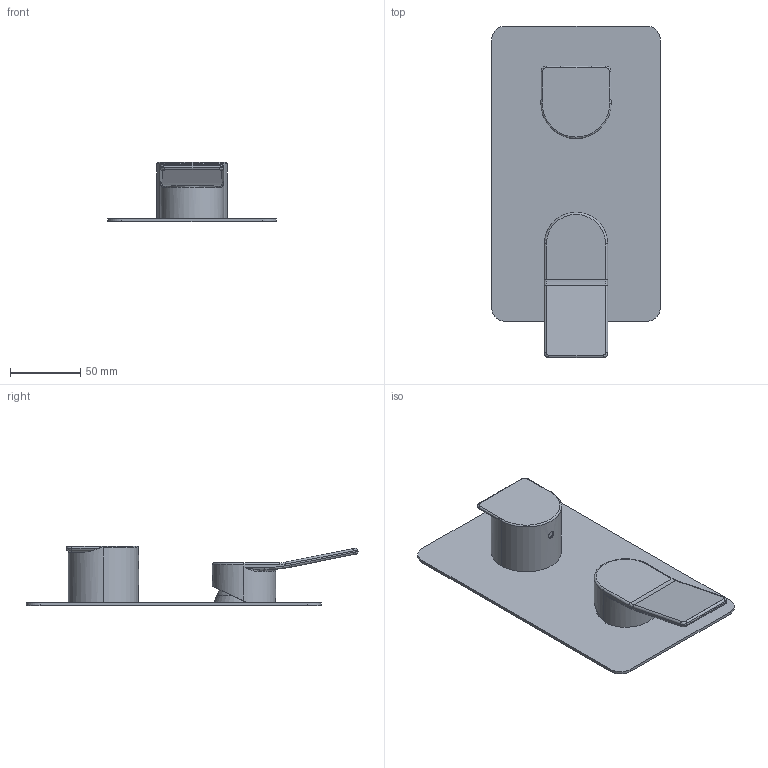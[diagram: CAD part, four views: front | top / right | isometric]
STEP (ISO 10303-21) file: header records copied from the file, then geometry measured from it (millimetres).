
FILE_DESCRIPTION (( 'STEP AP203' ), '1' );
FILE_NAME ('85225310 x architetti.STEP', '2026-06-16T06:40:40', ( '' ), ( '' ), 'SwSTEP 2.0', 'SolidWorks 2020', '' );
FILE_SCHEMA (( 'CONFIG_CONTROL_DESIGN' ));
Length unit declared in the file: millimetre
Products named in the file (1): 85225310 x architetti
Bounding box: 120 x 236.06 x 42 mm (x, y, z)
Volume: 177251.9 mm3; surface area: 78839 mm2
Topology: 1 solids, 2 shells, 110 faces, 248 edges, 148 vertices
Faces by surface type: cylinder 49, plane 25, bspline 16, torus 7, cone 7, sphere 6
Entity records: 4178 total; most frequent: CARTESIAN_POINT 1749, DIRECTION 494, ORIENTED_EDGE 492, EDGE_CURVE 246, AXIS2_PLACEMENT_3D 203, VERTEX_POINT 148, EDGE_LOOP 118, ADVANCED_FACE 110
